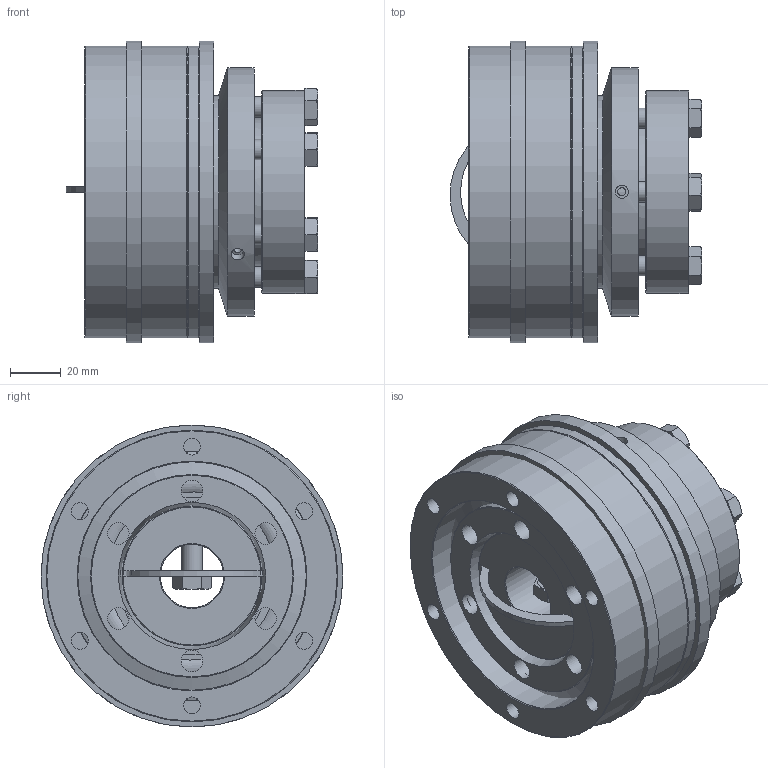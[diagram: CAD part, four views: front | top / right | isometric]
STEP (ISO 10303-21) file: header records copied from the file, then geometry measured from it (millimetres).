
FILE_DESCRIPTION( ( 'Unknown' ), '1' );
FILE_NAME( 'C:/Dokumente und Einstellungen/Sven/Desktop/hp kbk/KBK L-A-300.stp', 'Unknown', ( 'Unknown' ), ( 'Unknown' ), 'XStep 1.0', 'Unknown', ' ' );
FILE_SCHEMA( ( 'automotive_design' ) );
Length unit declared in the file: millimetre
Products named in the file (12): Assem1; Assem2; ball_bearing_-_6011_0_01; ball_bearing_-_6011_0_02; ball_bearing_-_6011_0_03; Stellring 300; Druckring 300; a_55; KBK L-A-300 Grundkörper; Druckring L-A-300; Flansch 300; din_en_24017_m8x30
Bounding box: 99.27 x 119 x 119 mm (x, y, z)
Volume: 1045012.7 mm3; surface area: 327510 mm2
Topology: 28 solids, 28 shells, 457 faces, 968 edges, 616 vertices
Faces by surface type: plane 187, cylinder 136, cone 104, torus 30
Full cylindrical faces by diameter (mm): 2.5 x4, 3.242 x6, 5.2 x6, 6.647 x24, 8 x7, 8.5 x12, 11.63 x7, 25 x2, 52 x2, 55 x7, 57.995 x2, 66.3 x6, 76 x4, 79.1 x6, 80 x2, 83.5 x2, 88 x2, 90 x5, 98 x2, 98.5 x2, 115 x4, 119 x2
Entity records: 5029 total; most frequent: CARTESIAN_POINT 1058, DIRECTION 764, ORIENTED_EDGE 504, AXIS2_PLACEMENT_3D 356, EDGE_LOOP 298, EDGE_CURVE 252, FACE_OUTER_BOUND 222, VERTEX_POINT 204
